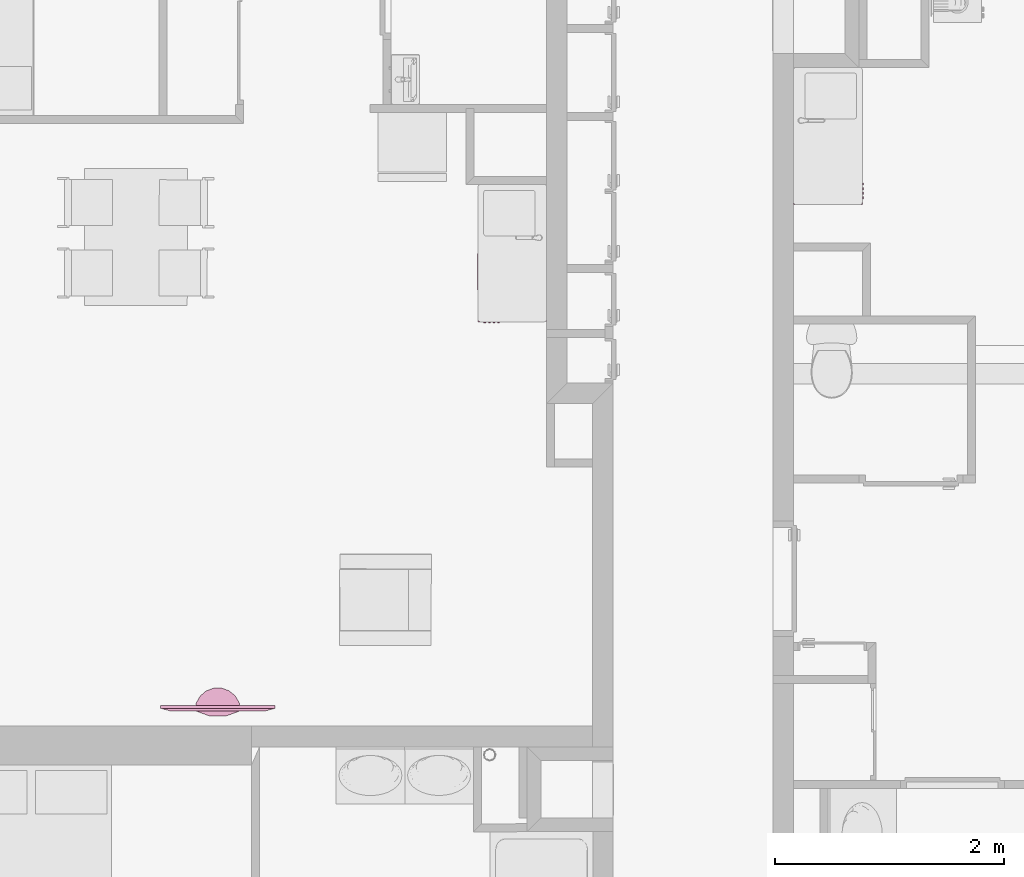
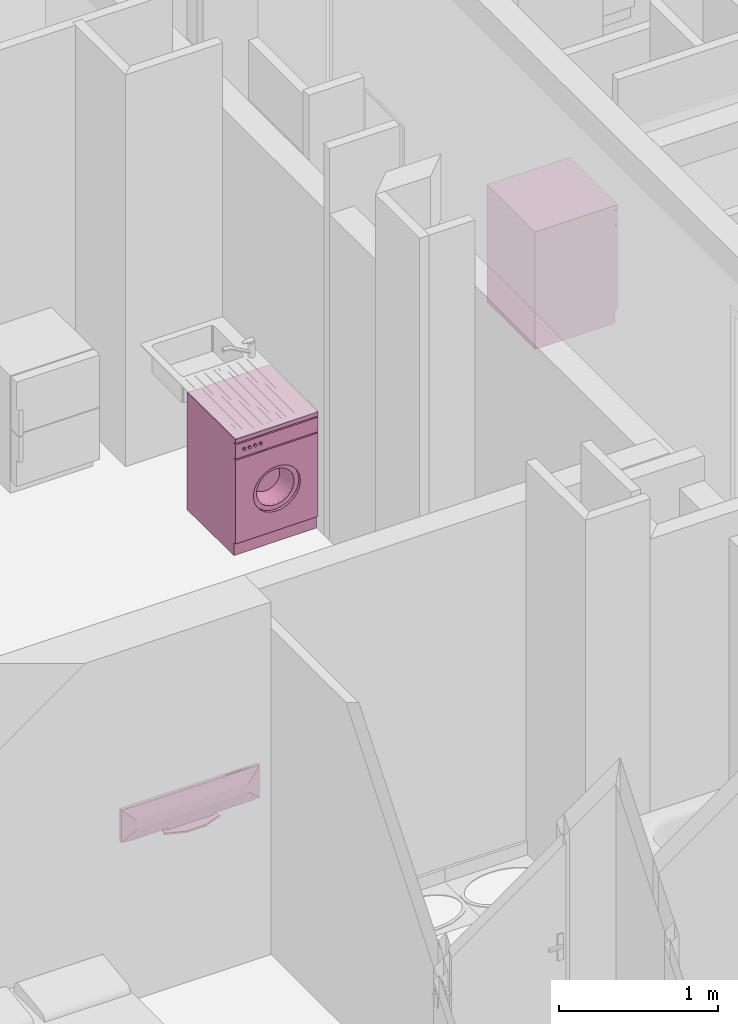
# One storey, part 132 of 171: 3 furnishings.
"""IFC2X3 building model written with IfcOpenShell, lengths in millimetres."""

from ifc_helpers import new_model, entity, si_unit, converted_unit, derived_unit, money_unit, direction, frame, origin_with_axes, place, context, subcontext, project, spatial, open_shell, faceted_brep, surface_model, source, transform, mapped, type_object, element, save


model = new_model("IFC2X3")

# Units and contexts
model_context = context("Model", 3, precision=0.01, world=origin_with_axes(), true_north=direction((0.0, 1.0)))
body_context = subcontext(model_context, "Body", "Model", "MODEL_VIEW")
ifc_project = project(units=[si_unit("LENGTHUNIT", "METRE", prefix="MILLI"), si_unit("AREAUNIT", "SQUARE_METRE"), si_unit("VOLUMEUNIT", "CUBIC_METRE"), converted_unit("PLANEANGLEUNIT", "DEGREE", entity("IfcPlaneAngleMeasure", 0.0174532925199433), si_unit("PLANEANGLEUNIT", "RADIAN"), dimensions=[0, 0, 0, 0, 0, 0, 0]), money_unit("USD"), converted_unit("TIMEUNIT", "Year", entity("IfcTimeMeasure", 31557600.0), si_unit("TIMEUNIT", "SECOND"), dimensions=[0, 0, 1, 0, 0, 0, 0]), si_unit("MASSUNIT", "GRAM", prefix="KILO"), si_unit("THERMODYNAMICTEMPERATUREUNIT", "DEGREE_CELSIUS"), si_unit("LUMINOUSINTENSITYUNIT", "LUMEN"), si_unit("ENERGYUNIT", "JOULE", prefix="MEGA"), derived_unit("THERMALCONDUCTANCEUNIT", [(si_unit("POWERUNIT", "WATT"), 1), (si_unit("LENGTHUNIT", "METRE"), -1), (si_unit("THERMODYNAMICTEMPERATUREUNIT", "KELVIN"), -1)]), derived_unit("SPECIFICHEATCAPACITYUNIT", [(si_unit("ENERGYUNIT", "JOULE"), 1), (si_unit("MASSUNIT", "GRAM", prefix="KILO"), -1), (si_unit("THERMODYNAMICTEMPERATUREUNIT", "KELVIN"), -1)]), derived_unit("MASSDENSITYUNIT", [(si_unit("MASSUNIT", "GRAM", prefix="KILO"), 1), (si_unit("VOLUMEUNIT", "CUBIC_METRE"), -1)])], contexts=[model_context])

# Site, building, storey
site_placement = place(None, origin_with_axes())
site = spatial("IfcSite", under=ifc_project, at=site_placement, Name="Site", CompositionType="ELEMENT")
building_placement = place(site_placement, origin_with_axes())
building = spatial("IfcBuilding", under=site, at=building_placement, Name="Bâtiment", CompositionType="ELEMENT")
storey_placement = place(building_placement, frame((0.0, 0.0, 3000.0), z_axis=(0.0, 0.0, 1.0), x_axis=(1.0, 0.0, 0.0)))
storey = spatial("IfcBuildingStorey", under=building, at=storey_placement, Name="rdc", CompositionType="ELEMENT", Elevation=3000.0)

# Furnishings
furnishing_element_type_1 = type_object("IfcFurnishingElementType", Name="Ecran TV plasma")
shared_shape_1 = source(origin_with_axes(), body_context, "Body", "Brep", [
    faceted_brep([(-300.0, 45.45454545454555, 0.0), (-300.0, 45.45454545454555, 12.72727272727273), (-311.9952377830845, -22.76722074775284, 12.72727272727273), (-311.9952377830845, -22.76722074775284, 0.0), (-300.362869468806, 45.66379498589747, 0.0), (-300.362869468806, 45.66379498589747, 12.72727272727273), (-430.8157560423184, 93.01588086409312, 12.72727272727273), (-569.5967719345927, 92.94321528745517, 12.72727272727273), (-700.0000000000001, 45.45454545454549, 12.72727272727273), (-699.9923846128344, 43.70923835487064, 12.72727272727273), (-687.402263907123, -24.40525330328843, 12.72727272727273), (-652.3327960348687, -84.13989598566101, 12.72727272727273), (-598.9906470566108, -128.3293772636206, 12.72727272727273), (-533.7743345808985, -151.6730637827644, 12.72727272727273), (-464.5067103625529, -151.3708248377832, 12.72727272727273), (-399.4965906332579, -127.4589147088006, 12.72727272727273), (-346.5420938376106, -82.80562387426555, 12.72727272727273), (-346.5420938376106, -82.80562387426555, 0.0), (-399.4965906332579, -127.4589147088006, 0.0), (-464.5067103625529, -151.3708248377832, 0.0), (-533.7743345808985, -151.6730637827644, 0.0), (-598.9906470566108, -128.3293772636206, 0.0), (-652.3327960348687, -84.13989598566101, 0.0), (-687.402263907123, -24.40525330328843, 0.0), (-699.9923846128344, 43.70923835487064, 0.0), (-700.0000000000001, 45.45454545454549, 0.0), (-569.5967719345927, 92.94321528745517, 0.0), (-430.8157560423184, 93.01588086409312, 0.0)], [[[0, 1, 2, 3]], [[4, 5, 1, 0]], [[1, 5, 6, 7, 8, 9, 10, 11, 12, 13, 14, 15, 16, 2]], [[3, 2, 16, 17]], [[0, 3, 17, 18, 19, 20, 21, 22, 23, 24, 25, 26, 27, 4]], [[27, 6, 5, 4]], [[26, 7, 6, 27]], [[25, 8, 7, 26]], [[24, 9, 8, 25]], [[23, 10, 9, 24]], [[22, 11, 10, 23]], [[21, 12, 11, 22]], [[20, 13, 12, 21]], [[19, 14, 13, 20]], [[18, 15, 14, 19]], [[17, 16, 15, 18]]]),
    faceted_brep([(-666.6666666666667, 2.500000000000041, 12.72727272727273), (-666.6666666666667, 2.500000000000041, 25.45454545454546), (-666.6666666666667, 22.50000000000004, 25.45454545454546), (-666.6666666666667, 22.50000000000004, 12.72727272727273), (-333.3333333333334, 2.500000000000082, 12.72727272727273), (-333.3333333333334, 2.500000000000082, 25.45454545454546), (-333.3333333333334, 22.50000000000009, 25.45454545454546), (-333.3333333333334, 22.50000000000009, 12.72727272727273)], [[[0, 1, 2, 3]], [[4, 5, 1, 0]], [[1, 5, 6, 2]], [[3, 2, 6, 7]], [[0, 3, 7, 4]], [[7, 6, 5, 4]]]),
    faceted_brep([(-62.5, -0.2539999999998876, 65.45454545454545), (-62.5, 0.0, 65.45454545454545), (-62.5, 0.0, 254.5454545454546), (-62.5, -0.2539999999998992, 254.5454545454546), (-937.5, -0.2539999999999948, 65.45454545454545), (-937.5, 0.0, 65.45454545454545), (-937.5, 0.0, 254.5454545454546), (-937.5, -0.2540000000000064, 254.5454545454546)], [[[0, 1, 2, 3]], [[4, 5, 1, 0]], [[1, 5, 6, 2]], [[3, 2, 6, 7]], [[0, 3, 7, 4]], [[7, 6, 5, 4]]]),
    faceted_brep([(-937.5, 0.0, 25.45454545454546), (-62.5, 0.0, 25.45454545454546), (0.0, 0.0, 31.81818181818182), (0.0, 0.0, 280.0), (-1000.0, 0.0, 280.0), (-1000.0, 0.0, 31.81818181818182), (-937.5000003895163, 25.00000000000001, 25.4545450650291), (-62.50000038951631, 25.00000000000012, 25.4545450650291), (-3.895163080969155e-07, 25.00000000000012, 31.81818187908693), (-3.895163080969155e-07, 25.00000000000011, 279.9999999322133), (-1000.000000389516, 24.99999999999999, 279.9999999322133), (-1000.000000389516, 25.0, 31.81818187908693), (-934.156616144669, 42.64268163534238, 91.29792930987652), (-906.6987288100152, 50.00000037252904, 118.7558166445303), (-93.30127196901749, 50.00000037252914, 118.7558166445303), (-65.84338463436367, 42.64268163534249, 91.29792930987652), (-93.30127196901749, 50.00000037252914, 186.6987283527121), (-906.6987288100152, 50.00000037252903, 186.6987283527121)], [[[0, 1, 2, 3, 4, 5]], [[0, 6, 7, 1]], [[1, 7, 8, 2]], [[2, 8, 9, 3]], [[3, 9, 10, 4]], [[4, 10, 11, 5]], [[5, 11, 6, 0]], [[6, 12, 13, 14, 15, 7]], [[7, 15, 8]], [[8, 15, 14, 16, 9]], [[9, 16, 17, 10]], [[10, 17, 13, 12, 11]], [[11, 12, 6]], [[17, 16, 14, 13]]]),
    faceted_brep([(-500.0, -0.7937499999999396, 39.45454545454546), (-500.0, 0.0, 39.45454545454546), (-490.0, 0.0, 46.45454545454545), (-490.0, -0.7937499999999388, 46.45454545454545), (-510.0, -0.7937499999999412, 46.45454545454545), (-510.0, 0.0, 46.45454545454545), (-600.0, 0.0, 52.18181818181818), (-400.0, 0.0, 52.18181818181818), (-400.0, -0.7937499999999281, 52.18181818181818), (-600.0, -0.7937499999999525, 52.18181818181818)], [[[0, 1, 2, 3]], [[4, 5, 1, 0]], [[1, 5, 6, 7, 2]], [[3, 2, 7, 8]], [[0, 3, 8, 9, 4]], [[9, 6, 5, 4]], [[8, 7, 6, 9]]]),
    faceted_brep([(-866.6666666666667, 10.0, 280.0), (-866.6666666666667, 10.0, 281.5875), (-933.3333333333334, 9.999999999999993, 281.5875), (-933.3333333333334, 9.999999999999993, 280.0), (-866.6666666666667, 16.25, 280.0), (-866.6666666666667, 16.25, 281.5875), (-933.3333333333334, 16.24999999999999, 281.5875), (-933.3333333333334, 16.24999999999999, 280.0)], [[[0, 1, 2, 3]], [[0, 4, 5, 1]], [[1, 5, 6, 2]], [[2, 6, 7, 3]], [[3, 7, 4, 0]], [[7, 6, 5, 4]]]),
    faceted_brep([(-795.2380952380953, 10.00000000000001, 280.0), (-795.2380952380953, 10.00000000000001, 281.5875), (-861.9047619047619, 10.0, 281.5875), (-861.9047619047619, 10.0, 280.0), (-795.2380952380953, 16.25000000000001, 280.0), (-795.2380952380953, 16.25000000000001, 281.5875), (-861.9047619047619, 16.25, 281.5875), (-861.9047619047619, 16.25, 280.0)], [[[0, 1, 2, 3]], [[0, 4, 5, 1]], [[1, 5, 6, 2]], [[2, 6, 7, 3]], [[3, 7, 4, 0]], [[7, 6, 5, 4]]]),
    faceted_brep([(-757.1428571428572, 10.00000000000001, 280.0), (-757.1428571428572, 10.00000000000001, 281.5875), (-790.4761904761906, 10.00000000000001, 281.5875), (-790.4761904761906, 10.00000000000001, 280.0), (-757.1428571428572, 16.25000000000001, 280.0), (-757.1428571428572, 16.25000000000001, 281.5875), (-790.4761904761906, 16.25000000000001, 281.5875), (-790.4761904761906, 16.25000000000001, 280.0)], [[[0, 1, 2, 3]], [[0, 4, 5, 1]], [[1, 5, 6, 2]], [[2, 6, 7, 3]], [[3, 7, 4, 0]], [[7, 6, 5, 4]]]),
])
furnishing_placement = place(storey_placement, frame((2220356.736010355, -643834.6130542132, 800.0000000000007), z_axis=(0.0, 0.0, 1.0), x_axis=(-0.999999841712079, 0.0005626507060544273, 0.0)))
element("IfcFurnishingElement", 1, at=furnishing_placement, inside=storey, type_object=furnishing_element_type_1, Name="Obj.-034", context=body_context, shape_type="MappedRepresentation", body=[
    mapped(shared_shape_1, transform((0.0, 0.0, 0.0))),
])
furnishing_element_type_2 = type_object("IfcFurnishingElementType", Name="Machine à laver")
shared_shape_2 = source(origin_with_axes(), body_context, "Body", "SurfaceModel", [
    faceted_brep([(0.0, 20.0, 100.0), (600.0, 20.0, 100.0), (600.0, 0.0, 100.0), (0.0, 0.0, 100.0), (0.0, 20.00000000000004, 740.0), (600.0, 20.00000000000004, 740.0), (471.4285714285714, 20.00000000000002, 420.0000000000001), (465.5872845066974, 20.00000000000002, 464.3689791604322), (448.4614977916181, 20.00000000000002, 505.7142857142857), (421.2183053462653, 20.00000000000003, 541.2183053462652), (385.7142857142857, 20.00000000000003, 568.4614977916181), (344.3689791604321, 20.00000000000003, 585.5872845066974), (300.0000000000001, 20.00000000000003, 591.4285714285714), (255.6310208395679, 20.00000000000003, 585.5872845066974), (214.2857142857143, 20.00000000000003, 568.4614977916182), (178.7816946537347, 20.00000000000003, 541.2183053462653), (151.5385022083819, 20.00000000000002, 505.7142857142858), (134.4127154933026, 20.00000000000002, 464.3689791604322), (128.5714285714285, 20.00000000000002, 420.0000000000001), (134.4127154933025, 20.00000000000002, 375.6310208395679), (151.5385022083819, 20.00000000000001, 334.2857142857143), (178.7816946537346, 20.00000000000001, 298.7816946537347), (214.2857142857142, 20.00000000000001, 271.5385022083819), (255.6310208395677, 20.00000000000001, 254.4127154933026), (299.9999999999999, 20.00000000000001, 248.5714285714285), (344.368979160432, 20.00000000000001, 254.4127154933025), (385.7142857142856, 20.00000000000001, 271.5385022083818), (421.2183053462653, 20.00000000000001, 298.7816946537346), (448.4614977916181, 20.00000000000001, 334.2857142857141), (465.5872845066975, 20.00000000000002, 375.6310208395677), (600.0, 0.0, 740.0), (0.0, 0.0, 740.0), (471.4285714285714, 0.0, 420.0000000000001), (465.5872845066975, 0.0, 375.6310208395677), (448.4614977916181, 0.0, 334.2857142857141), (421.2183053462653, 0.0, 298.7816946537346), (385.7142857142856, 0.0, 271.5385022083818), (344.368979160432, 0.0, 254.4127154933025), (299.9999999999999, 0.0, 248.5714285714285), (255.6310208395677, 0.0, 254.4127154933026), (214.2857142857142, 0.0, 271.5385022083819), (178.7816946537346, 0.0, 298.7816946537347), (151.5385022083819, 0.0, 334.2857142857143), (134.4127154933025, 0.0, 375.6310208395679), (128.5714285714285, 0.0, 420.0000000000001), (134.4127154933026, 0.0, 464.3689791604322), (151.5385022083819, 0.0, 505.7142857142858), (178.7816946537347, 0.0, 541.2183053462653), (214.2857142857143, 0.0, 568.4614977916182), (255.6310208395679, 0.0, 585.5872845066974), (300.0000000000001, 0.0, 591.4285714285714), (344.3689791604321, 0.0, 585.5872845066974), (385.7142857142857, 0.0, 568.4614977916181), (421.2183053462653, 0.0, 541.2183053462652), (448.4614977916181, 0.0, 505.7142857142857), (465.5872845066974, 0.0, 464.3689791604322)], [[[0, 1, 2, 3]], [[0, 4, 5, 1], [6, 7, 8, 9, 10, 11, 12, 13, 14, 15, 16, 17, 18, 19, 20, 21, 22, 23, 24, 25, 26, 27, 28, 29]], [[1, 5, 30, 2]], [[3, 2, 30, 31], [32, 33, 34, 35, 36, 37, 38, 39, 40, 41, 42, 43, 44, 45, 46, 47, 48, 49, 50, 51, 52, 53, 54, 55]], [[4, 0, 3, 31]], [[5, 4, 31, 30]], [[7, 6, 32, 55]], [[8, 7, 55, 54]], [[9, 8, 54, 53]], [[10, 9, 53, 52]], [[11, 10, 52, 51]], [[12, 11, 51, 50]], [[13, 12, 50, 49]], [[14, 13, 49, 48]], [[15, 14, 48, 47]], [[16, 15, 47, 46]], [[17, 16, 46, 45]], [[18, 17, 45, 44]], [[19, 18, 44, 43]], [[20, 19, 43, 42]], [[21, 20, 42, 41]], [[22, 21, 41, 40]], [[23, 22, 40, 39]], [[24, 23, 39, 38]], [[25, 24, 38, 37]], [[26, 25, 37, 36]], [[27, 26, 36, 35]], [[28, 27, 35, 34]], [[29, 28, 34, 33]], [[6, 29, 33, 32]]]),
    faceted_brep([(471.4285714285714, 40.00000000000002, 420.0000000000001), (465.5872845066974, 40.00000000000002, 464.3689791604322), (465.5872845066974, 20.00000000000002, 464.3689791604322), (471.4285714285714, 20.00000000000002, 420.0000000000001), (465.5872845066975, 40.00000000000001, 375.6310208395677), (448.4614977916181, 40.00000000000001, 334.2857142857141), (421.2183053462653, 40.00000000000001, 298.7816946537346), (385.7142857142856, 40.00000000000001, 271.5385022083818), (344.368979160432, 40.00000000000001, 254.4127154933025), (299.9999999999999, 40.00000000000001, 248.5714285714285), (255.6310208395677, 40.00000000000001, 254.4127154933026), (214.2857142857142, 40.00000000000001, 271.5385022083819), (178.7816946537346, 40.00000000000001, 298.7816946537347), (151.5385022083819, 40.00000000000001, 334.2857142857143), (134.4127154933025, 40.00000000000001, 375.6310208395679), (128.5714285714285, 40.00000000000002, 420.0000000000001), (134.4127154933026, 40.00000000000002, 464.3689791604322), (151.5385022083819, 40.00000000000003, 505.7142857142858), (178.7816946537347, 40.00000000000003, 541.2183053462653), (214.2857142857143, 40.00000000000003, 568.4614977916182), (255.6310208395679, 40.00000000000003, 585.5872845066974), (300.0000000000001, 40.00000000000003, 591.4285714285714), (344.3689791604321, 40.00000000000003, 585.5872845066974), (385.7142857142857, 40.00000000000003, 568.4614977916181), (421.2183053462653, 40.00000000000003, 541.2183053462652), (448.4614977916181, 40.00000000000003, 505.7142857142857), (437.1428571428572, 40.00000000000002, 420.0000000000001), (432.469827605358, 40.00000000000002, 455.4951833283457), (418.7691982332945, 40.00000000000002, 488.5714285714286), (396.9746442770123, 40.00000000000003, 516.9746442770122), (368.5714285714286, 40.00000000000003, 538.7691982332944), (335.4951833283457, 40.00000000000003, 552.469827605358), (300.0000000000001, 40.00000000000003, 557.1428571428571), (264.5048166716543, 40.00000000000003, 552.469827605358), (231.4285714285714, 40.00000000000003, 538.7691982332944), (203.0253557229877, 40.00000000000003, 516.9746442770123), (181.2308017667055, 40.00000000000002, 488.5714285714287), (167.530172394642, 40.00000000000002, 455.4951833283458), (162.8571428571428, 40.00000000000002, 420.0000000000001), (167.530172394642, 40.00000000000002, 384.5048166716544), (181.2308017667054, 40.00000000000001, 351.4285714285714), (203.0253557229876, 40.00000000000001, 323.0253557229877), (231.4285714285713, 40.00000000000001, 301.2308017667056), (264.5048166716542, 40.00000000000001, 287.530172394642), (299.9999999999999, 40.00000000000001, 282.8571428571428), (335.4951833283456, 40.00000000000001, 287.530172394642), (368.5714285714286, 40.00000000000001, 301.2308017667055), (396.9746442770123, 40.00000000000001, 323.0253557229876), (418.7691982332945, 40.00000000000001, 351.4285714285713), (432.469827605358, 40.00000000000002, 384.5048166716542), (448.4614977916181, 20.00000000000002, 505.7142857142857), (421.2183053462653, 20.00000000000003, 541.2183053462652), (385.7142857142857, 20.00000000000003, 568.4614977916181), (344.3689791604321, 20.00000000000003, 585.5872845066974), (300.0000000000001, 20.00000000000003, 591.4285714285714), (255.6310208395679, 20.00000000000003, 585.5872845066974), (214.2857142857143, 20.00000000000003, 568.4614977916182), (178.7816946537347, 20.00000000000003, 541.2183053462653), (151.5385022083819, 20.00000000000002, 505.7142857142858), (134.4127154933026, 20.00000000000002, 464.3689791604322), (128.5714285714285, 20.00000000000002, 420.0000000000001), (134.4127154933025, 20.00000000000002, 375.6310208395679), (151.5385022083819, 20.00000000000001, 334.2857142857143), (178.7816946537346, 20.00000000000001, 298.7816946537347), (214.2857142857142, 20.00000000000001, 271.5385022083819), (255.6310208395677, 20.00000000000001, 254.4127154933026), (299.9999999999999, 20.00000000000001, 248.5714285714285), (344.368979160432, 20.00000000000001, 254.4127154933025), (385.7142857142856, 20.00000000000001, 271.5385022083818), (421.2183053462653, 20.00000000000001, 298.7816946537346), (448.4614977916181, 20.00000000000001, 334.2857142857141), (465.5872845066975, 20.00000000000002, 375.6310208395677), (437.1428571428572, 20.00000000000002, 420.0000000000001), (432.469827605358, 20.00000000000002, 384.5048166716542), (418.7691982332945, 20.00000000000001, 351.4285714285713), (396.9746442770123, 20.00000000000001, 323.0253557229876), (368.5714285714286, 20.00000000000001, 301.2308017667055), (335.4951833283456, 20.00000000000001, 287.530172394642), (299.9999999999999, 20.00000000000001, 282.8571428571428), (264.5048166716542, 20.00000000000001, 287.530172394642), (231.4285714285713, 20.00000000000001, 301.2308017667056), (203.0253557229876, 20.00000000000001, 323.0253557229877), (181.2308017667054, 20.00000000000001, 351.4285714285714), (167.530172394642, 20.00000000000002, 384.5048166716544), (162.8571428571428, 20.00000000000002, 420.0000000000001), (167.530172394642, 20.00000000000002, 455.4951833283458), (181.2308017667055, 20.00000000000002, 488.5714285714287), (203.0253557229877, 20.00000000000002, 516.9746442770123), (231.4285714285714, 20.00000000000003, 538.7691982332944), (264.5048166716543, 20.00000000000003, 552.469827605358), (300.0000000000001, 20.00000000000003, 557.1428571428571), (335.4951833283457, 20.00000000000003, 552.469827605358), (368.5714285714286, 20.00000000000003, 538.7691982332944), (396.9746442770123, 20.00000000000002, 516.9746442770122), (418.7691982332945, 20.00000000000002, 488.5714285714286), (432.469827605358, 20.00000000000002, 455.4951833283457)], [[[0, 1, 2, 3]], [[0, 4, 5, 6, 7, 8, 9, 10, 11, 12, 13, 14, 15, 16, 17, 18, 19, 20, 21, 22, 23, 24, 25, 1], [26, 27, 28, 29, 30, 31, 32, 33, 34, 35, 36, 37, 38, 39, 40, 41, 42, 43, 44, 45, 46, 47, 48, 49]], [[1, 25, 50, 2]], [[3, 2, 50, 51, 52, 53, 54, 55, 56, 57, 58, 59, 60, 61, 62, 63, 64, 65, 66, 67, 68, 69, 70, 71], [72, 73, 74, 75, 76, 77, 78, 79, 80, 81, 82, 83, 84, 85, 86, 87, 88, 89, 90, 91, 92, 93, 94, 95]], [[4, 0, 3, 71]], [[5, 4, 71, 70]], [[6, 5, 70, 69]], [[7, 6, 69, 68]], [[8, 7, 68, 67]], [[9, 8, 67, 66]], [[10, 9, 66, 65]], [[11, 10, 65, 64]], [[12, 11, 64, 63]], [[13, 12, 63, 62]], [[14, 13, 62, 61]], [[15, 14, 61, 60]], [[16, 15, 60, 59]], [[17, 16, 59, 58]], [[18, 17, 58, 57]], [[19, 18, 57, 56]], [[20, 19, 56, 55]], [[21, 20, 55, 54]], [[22, 21, 54, 53]], [[23, 22, 53, 52]], [[24, 23, 52, 51]], [[25, 24, 51, 50]], [[27, 26, 72, 95]], [[28, 27, 95, 94]], [[29, 28, 94, 93]], [[30, 29, 93, 92]], [[31, 30, 92, 91]], [[32, 31, 91, 90]], [[33, 32, 90, 89]], [[34, 33, 89, 88]], [[35, 34, 88, 87]], [[36, 35, 87, 86]], [[37, 36, 86, 85]], [[38, 37, 85, 84]], [[39, 38, 84, 83]], [[40, 39, 83, 82]], [[41, 40, 82, 81]], [[42, 41, 81, 80]], [[43, 42, 80, 79]], [[44, 43, 79, 78]], [[45, 44, 78, 77]], [[46, 45, 77, 76]], [[47, 46, 76, 75]], [[48, 47, 75, 74]], [[49, 48, 74, 73]], [[26, 49, 73, 72]]]),
    surface_model("IfcShellBasedSurfaceModel", [(264.5048166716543, 39.99999999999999, 552.469827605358), (300.0, 39.99999999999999, 557.1428571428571), (300.0, 140.0, 522.8571428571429), (273.3786125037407, 140.0, 519.3523707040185), (335.4951833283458, 39.99999999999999, 552.469827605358), (326.6213874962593, 140.0, 519.3523707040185), (351.4285714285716, 140.0, 509.0768986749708), (372.7309832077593, 140.0, 492.7309832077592), (389.0768986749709, 140.0, 471.4285714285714), (399.3523707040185, 140.0, 446.6213874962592), (402.8571428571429, 140.0, 420.0), (399.3523707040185, 140.0, 393.3786125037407), (389.0768986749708, 140.0, 368.5714285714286), (372.7309832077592, 140.0, 347.2690167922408), (351.4285714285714, 140.0, 330.9231013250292), (326.6213874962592, 140.0, 320.6476292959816), (299.9999999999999, 140.0, 317.1428571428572), (273.3786125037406, 140.0, 320.6476292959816), (248.5714285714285, 140.0, 330.9231013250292), (227.2690167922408, 140.0, 347.2690167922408), (210.9231013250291, 140.0, 368.5714285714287), (200.6476292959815, 140.0, 393.3786125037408), (197.1428571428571, 140.0, 420.0000000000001), (200.6476292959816, 140.0, 446.6213874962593), (210.9231013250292, 140.0, 471.4285714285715), (227.2690167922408, 140.0, 492.7309832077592), (248.5714285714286, 140.0, 509.0768986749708), (231.4285714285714, 39.99999999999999, 538.7691982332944), (368.5714285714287, 39.99999999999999, 538.7691982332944), (396.9746442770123, 39.99999999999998, 516.9746442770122), (418.7691982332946, 39.99999999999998, 488.5714285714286), (432.469827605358, 39.99999999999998, 455.4951833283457), (437.1428571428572, 39.99999999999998, 419.9999999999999), (432.469827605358, 39.99999999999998, 384.5048166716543), (418.7691982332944, 39.99999999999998, 351.4285714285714), (396.9746442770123, 39.99999999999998, 323.0253557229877), (368.5714285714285, 39.99999999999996, 301.2308017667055), (335.4951833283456, 39.99999999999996, 287.5301723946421), (299.9999999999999, 39.99999999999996, 282.8571428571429), (264.5048166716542, 39.99999999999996, 287.5301723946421), (231.4285714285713, 39.99999999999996, 301.2308017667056), (203.0253557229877, 39.99999999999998, 323.0253557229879), (181.2308017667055, 39.99999999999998, 351.4285714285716), (167.530172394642, 39.99999999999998, 384.5048166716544), (162.8571428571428, 39.99999999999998, 420.0000000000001), (167.5301723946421, 39.99999999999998, 455.4951833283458), (181.2308017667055, 39.99999999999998, 488.5714285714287), (203.0253557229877, 39.99999999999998, 516.9746442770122)], [open_shell([[[0, 1, 2, 3]], [[1, 4, 5, 2]], [[2, 5, 6, 7, 8, 9, 10, 11, 12, 13, 14, 15, 16, 17, 18, 19, 20, 21, 22, 23, 24, 25, 26, 3]], [[27, 0, 3, 26]], [[4, 28, 6, 5]], [[28, 29, 7, 6]], [[29, 30, 8, 7]], [[30, 31, 9, 8]], [[31, 32, 10, 9]], [[32, 33, 11, 10]], [[33, 34, 12, 11]], [[34, 35, 13, 12]], [[35, 36, 14, 13]], [[36, 37, 15, 14]], [[37, 38, 16, 15]], [[38, 39, 17, 16]], [[39, 40, 18, 17]], [[40, 41, 19, 18]], [[41, 42, 20, 19]], [[42, 43, 21, 20]], [[43, 44, 22, 21]], [[44, 45, 23, 22]], [[45, 46, 24, 23]], [[46, 47, 25, 24]], [[47, 27, 26, 25]]])]),
    surface_model("IfcShellBasedSurfaceModel", [(0.0, 20.0, 100.0), (0.0, 20.00000000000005, 870.0), (0.0, 600.0, 870.0), (0.0, 600.0, 99.99999999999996)], [open_shell([[[0, 1, 2, 3]]])]),
    surface_model("IfcShellBasedSurfaceModel", [(600.0, 19.99999999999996, 100.0), (600.0, 20.00000000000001, 870.0), (600.0, 599.9999999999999, 870.0), (600.0, 599.9999999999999, 99.99999999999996)], [open_shell([[[0, 1, 2, 3]]])]),
    surface_model("IfcShellBasedSurfaceModel", [(0.0, 600.0, 100.0), (0.0, 600.0, 870.0), (600.0, 600.0, 870.0), (600.0, 600.0, 100.0)], [open_shell([[[0, 1, 2, 3]]])]),
    faceted_brep([(0.0, 20.0, 0.0), (600.0, 20.0, 0.0), (600.0, 20.0, 100.0), (0.0, 20.0, 100.0), (0.0, 600.0, 0.0), (600.0, 600.0, 0.0), (600.0, 600.0, 100.0), (0.0, 600.0, 100.0)], [[[0, 1, 2, 3]], [[0, 4, 5, 1]], [[1, 5, 6, 2]], [[3, 2, 6, 7]], [[4, 0, 3, 7]], [[5, 4, 7, 6]]]),
    faceted_brep([(0.0, 20.0, 750.0), (600.0, 20.0, 750.0), (600.0, 0.0, 750.0), (0.0, 0.0, 750.0), (0.0, 20.00000000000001, 860.0), (600.0, 20.00000000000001, 860.0), (600.0, 0.0, 860.0), (0.0, 0.0, 860.0)], [[[0, 1, 2, 3]], [[0, 4, 5, 1]], [[1, 5, 6, 2]], [[3, 2, 6, 7]], [[4, 0, 3, 7]], [[5, 4, 7, 6]]]),
    surface_model("IfcShellBasedSurfaceModel", [(0.0, 20.0, 740.0), (0.0, 20.00000000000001, 870.0), (600.0, 20.00000000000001, 870.0), (600.0, 20.0, 740.0)], [open_shell([[[0, 1, 2, 3]]])]),
    faceted_brep([(0.0, 0.0, 870.0), (600.0, 0.0, 870.0), (600.0, 0.0, 900.0), (0.0, 0.0, 900.0), (0.0, 600.0, 870.0), (600.0, 600.0, 870.0), (600.0, 600.0, 900.0), (0.0, 600.0, 900.0)], [[[0, 1, 2, 3]], [[0, 4, 5, 1]], [[1, 5, 6, 2]], [[3, 2, 6, 7]], [[4, 0, 3, 7]], [[5, 4, 7, 6]]]),
    faceted_brep([(68.66025403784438, 0.0, 804.9999999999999), (64.99999999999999, 0.0, 801.3397459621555), (59.99999999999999, 0.0, 799.9999999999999), (54.99999999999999, 0.0, 801.3397459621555), (51.33974596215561, 0.0, 804.9999999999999), (49.99999999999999, 0.0, 809.9999999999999), (51.33974596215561, 0.0, 815.0), (55.0, 0.0, 818.6602540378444), (60.0, 0.0, 820.0), (65.0, 0.0, 818.6602540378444), (68.66025403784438, 0.0, 815.0), (69.99999999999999, 0.0, 809.9999999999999), (68.66025403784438, -10.0, 804.9999999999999), (64.99999999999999, -10.0, 801.3397459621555), (59.99999999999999, -10.0, 799.9999999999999), (54.99999999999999, -10.0, 801.3397459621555), (51.33974596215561, -10.0, 804.9999999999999), (49.99999999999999, -10.0, 809.9999999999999), (51.33974596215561, -10.0, 815.0), (55.0, -10.0, 818.6602540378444), (60.0, -10.0, 820.0), (65.0, -10.0, 818.6602540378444), (68.66025403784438, -10.0, 815.0), (69.99999999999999, -10.0, 809.9999999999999)], [[[0, 1, 2, 3, 4, 5, 6, 7, 8, 9, 10, 11]], [[1, 0, 12, 13]], [[2, 1, 13, 14]], [[3, 2, 14, 15]], [[4, 3, 15, 16]], [[5, 4, 16, 17]], [[6, 5, 17, 18]], [[7, 6, 18, 19]], [[8, 7, 19, 20]], [[9, 8, 20, 21]], [[10, 9, 21, 22]], [[11, 10, 22, 23]], [[0, 11, 23, 12]], [[12, 23, 22, 21, 20, 19, 18, 17, 16, 15, 14, 13]]]),
    faceted_brep([(108.6602540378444, 0.0, 804.9999999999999), (105.0, 0.0, 801.3397459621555), (99.99999999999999, 0.0, 799.9999999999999), (95.0, 0.0, 801.3397459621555), (91.33974596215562, 0.0, 804.9999999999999), (90.00000000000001, 0.0, 809.9999999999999), (91.33974596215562, 0.0, 815.0), (95.0, 0.0, 818.6602540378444), (100.0, 0.0, 820.0), (105.0, 0.0, 818.6602540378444), (108.6602540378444, 0.0, 815.0), (110.0, 0.0, 809.9999999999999), (108.6602540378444, -10.0, 804.9999999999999), (105.0, -10.0, 801.3397459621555), (99.99999999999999, -10.0, 799.9999999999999), (95.0, -10.0, 801.3397459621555), (91.33974596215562, -10.0, 804.9999999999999), (90.00000000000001, -10.0, 809.9999999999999), (91.33974596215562, -10.0, 815.0), (95.0, -10.0, 818.6602540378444), (100.0, -10.0, 820.0), (105.0, -10.0, 818.6602540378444), (108.6602540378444, -10.0, 815.0), (110.0, -10.0, 809.9999999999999)], [[[0, 1, 2, 3, 4, 5, 6, 7, 8, 9, 10, 11]], [[1, 0, 12, 13]], [[2, 1, 13, 14]], [[3, 2, 14, 15]], [[4, 3, 15, 16]], [[5, 4, 16, 17]], [[6, 5, 17, 18]], [[7, 6, 18, 19]], [[8, 7, 19, 20]], [[9, 8, 20, 21]], [[10, 9, 21, 22]], [[11, 10, 22, 23]], [[0, 11, 23, 12]], [[12, 23, 22, 21, 20, 19, 18, 17, 16, 15, 14, 13]]]),
    faceted_brep([(148.6602540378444, 0.0, 804.9999999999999), (145.0, 0.0, 801.3397459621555), (140.0, 0.0, 799.9999999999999), (135.0, 0.0, 801.3397459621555), (131.3397459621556, 0.0, 804.9999999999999), (130.0, 0.0, 809.9999999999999), (131.3397459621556, 0.0, 815.0), (135.0, 0.0, 818.6602540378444), (140.0, 0.0, 820.0), (145.0, 0.0, 818.6602540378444), (148.6602540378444, 0.0, 815.0), (150.0, 0.0, 809.9999999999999), (148.6602540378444, -10.0, 804.9999999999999), (145.0, -10.0, 801.3397459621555), (140.0, -10.0, 799.9999999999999), (135.0, -10.0, 801.3397459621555), (131.3397459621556, -10.0, 804.9999999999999), (130.0, -10.0, 809.9999999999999), (131.3397459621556, -10.0, 815.0), (135.0, -10.0, 818.6602540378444), (140.0, -10.0, 820.0), (145.0, -10.0, 818.6602540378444), (148.6602540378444, -10.0, 815.0), (150.0, -10.0, 809.9999999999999)], [[[0, 1, 2, 3, 4, 5, 6, 7, 8, 9, 10, 11]], [[1, 0, 12, 13]], [[2, 1, 13, 14]], [[3, 2, 14, 15]], [[4, 3, 15, 16]], [[5, 4, 16, 17]], [[6, 5, 17, 18]], [[7, 6, 18, 19]], [[8, 7, 19, 20]], [[9, 8, 20, 21]], [[10, 9, 21, 22]], [[11, 10, 22, 23]], [[0, 11, 23, 12]], [[12, 23, 22, 21, 20, 19, 18, 17, 16, 15, 14, 13]]]),
    faceted_brep([(188.6602540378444, 0.0, 804.9999999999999), (185.0, 0.0, 801.3397459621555), (180.0, 0.0, 799.9999999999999), (175.0, 0.0, 801.3397459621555), (171.3397459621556, 0.0, 804.9999999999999), (170.0, 0.0, 809.9999999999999), (171.3397459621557, 0.0, 815.0), (175.0, 0.0, 818.6602540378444), (180.0, 0.0, 820.0), (185.0, 0.0, 818.6602540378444), (188.6602540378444, 0.0, 815.0), (190.0, 0.0, 809.9999999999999), (188.6602540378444, -10.0, 804.9999999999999), (185.0, -10.0, 801.3397459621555), (180.0, -10.0, 799.9999999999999), (175.0, -10.0, 801.3397459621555), (171.3397459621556, -10.0, 804.9999999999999), (170.0, -10.0, 809.9999999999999), (171.3397459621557, -10.0, 815.0), (175.0, -10.0, 818.6602540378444), (180.0, -10.0, 820.0), (185.0, -10.0, 818.6602540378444), (188.6602540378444, -10.0, 815.0), (190.0, -10.0, 809.9999999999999)], [[[0, 1, 2, 3, 4, 5, 6, 7, 8, 9, 10, 11]], [[1, 0, 12, 13]], [[2, 1, 13, 14]], [[3, 2, 14, 15]], [[4, 3, 15, 16]], [[5, 4, 16, 17]], [[6, 5, 17, 18]], [[7, 6, 18, 19]], [[8, 7, 19, 20]], [[9, 8, 20, 21]], [[10, 9, 21, 22]], [[11, 10, 22, 23]], [[0, 11, 23, 12]], [[12, 23, 22, 21, 20, 19, 18, 17, 16, 15, 14, 13]]]),
])
for number, where, z_axis, x_axis, name in (
    (2, (2226492.318353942, -639455.8793166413, 0.0), (0.0, 0.0, 1.0), (9.604381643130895e-05, 0.9999999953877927, 0.0), "Obj.-019"),
    (3, (2223132.000865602, -640482.8179966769, 0.0), (0.0, 0.0, 1.0), (0.9999762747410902, 0.00688839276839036, 0.0), "Obj.-019"),
):
    element("IfcFurnishingElement", number, at=place(storey_placement, frame(where, z_axis=z_axis, x_axis=x_axis)), inside=storey, type_object=furnishing_element_type_2, Name=name, context=body_context, shape_type="MappedRepresentation", body=[
        mapped(shared_shape_2, transform((0.0, 0.0, 0.0))),
    ])

save(model, "model.ifc")
